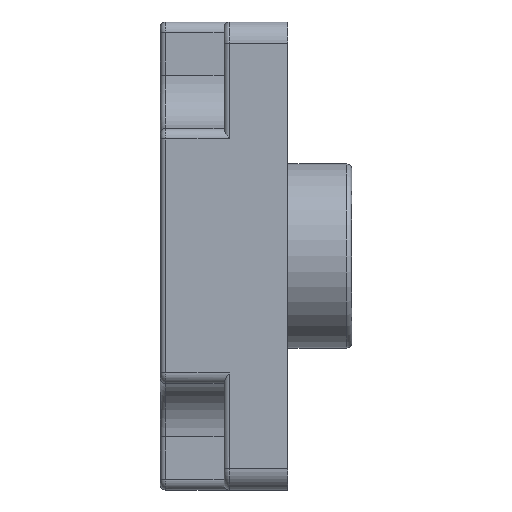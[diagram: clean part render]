
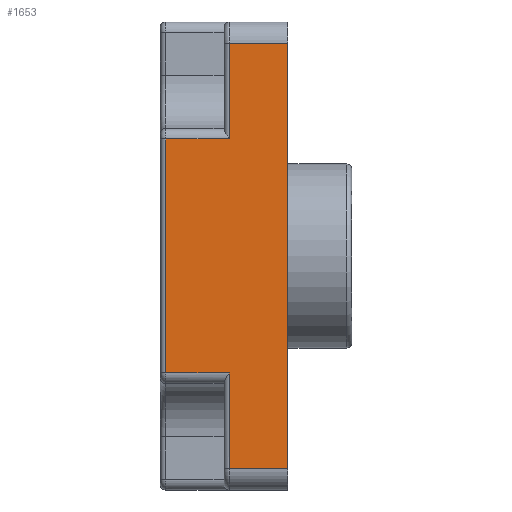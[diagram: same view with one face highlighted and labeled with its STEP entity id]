
A CAD part, left-side view. The second image highlights one B-rep face of the part: STEP entity #1653.
In plain terms, the highlighted planar face has unit normal (-1, 0, 0).
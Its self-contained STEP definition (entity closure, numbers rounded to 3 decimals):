
#44 = CARTESIAN_POINT ( 'NONE',  ( -22., 12., -11. ) ) ;
#64 = DIRECTION ( 'NONE',  ( 0., -1., 0. ) ) ;
#109 = CARTESIAN_POINT ( 'NONE',  ( -22., 11.5, -11. ) ) ;
#134 = EDGE_CURVE ( 'NONE', #1515, #1747, #2379, .T. ) ;
#145 = DIRECTION ( 'NONE',  ( 0., 0., -1. ) ) ;
#302 = CARTESIAN_POINT ( 'NONE',  ( -22., 5.5, -20. ) ) ;
#317 = EDGE_CURVE ( 'NONE', #1468, #1313, #2294, .T. ) ;
#364 = CARTESIAN_POINT ( 'NONE',  ( -22., 12., -20. ) ) ;
#530 = DIRECTION ( 'NONE',  ( 0., 0., -1. ) ) ;
#614 = LINE ( 'NONE', #44, #2636 ) ;
#651 = CARTESIAN_POINT ( 'NONE',  ( -22., 11.5, -11. ) ) ;
#729 = VECTOR ( 'NONE', #530, 1000. ) ;
#741 = ORIENTED_EDGE ( 'NONE', *, *, #1574, .T. ) ;
#863 = VECTOR ( 'NONE', #1804, 1000. ) ;
#961 = CARTESIAN_POINT ( 'NONE',  ( -22., 11.5, 11. ) ) ;
#975 = EDGE_CURVE ( 'NONE', #1747, #1079, #614, .T. ) ;
#1011 = EDGE_CURVE ( 'NONE', #1468, #2395, #2561, .T. ) ;
#1024 = CARTESIAN_POINT ( 'NONE',  ( -22., 0., 20. ) ) ;
#1079 = VERTEX_POINT ( 'NONE', #2131 ) ;
#1250 = PLANE ( 'NONE',  #2147 ) ;
#1313 = VERTEX_POINT ( 'NONE', #2378 ) ;
#1450 = CARTESIAN_POINT ( 'NONE',  ( -22., 12., 11. ) ) ;
#1467 = CARTESIAN_POINT ( 'NONE',  ( -22., 0., 20. ) ) ;
#1468 = VERTEX_POINT ( 'NONE', #1840 ) ;
#1471 = DIRECTION ( 'NONE',  ( 0., 0., 1. ) ) ;
#1513 = ORIENTED_EDGE ( 'NONE', *, *, #2597, .T. ) ;
#1515 = VERTEX_POINT ( 'NONE', #961 ) ;
#1574 = EDGE_CURVE ( 'NONE', #2307, #2629, #2114, .T. ) ;
#1653 = ADVANCED_FACE ( 'NONE', ( #2696 ), #1250, .F. ) ;
#1668 = CARTESIAN_POINT ( 'NONE',  ( -22., 5.5, 11. ) ) ;
#1679 = DIRECTION ( 'NONE',  ( 1., 0., 0. ) ) ;
#1747 = VERTEX_POINT ( 'NONE', #651 ) ;
#1791 = LINE ( 'NONE', #1024, #2659 ) ;
#1804 = DIRECTION ( 'NONE',  ( 0., 0., -1. ) ) ;
#1807 = ORIENTED_EDGE ( 'NONE', *, *, #134, .T. ) ;
#1840 = CARTESIAN_POINT ( 'NONE',  ( -22., 5.5, 20. ) ) ;
#1908 = ORIENTED_EDGE ( 'NONE', *, *, #975, .T. ) ;
#1950 = CARTESIAN_POINT ( 'NONE',  ( -22., 12., 20. ) ) ;
#1955 = VECTOR ( 'NONE', #2304, 1000. ) ;
#1967 = DIRECTION ( 'NONE',  ( 0., -1., 0. ) ) ;
#1974 = EDGE_CURVE ( 'NONE', #2629, #2395, #1791, .T. ) ;
#2007 = CARTESIAN_POINT ( 'NONE',  ( -22., 5.5, -20. ) ) ;
#2075 = DIRECTION ( 'NONE',  ( 0., 1., 0. ) ) ;
#2082 = EDGE_LOOP ( 'NONE', ( #1908, #2627, #741, #2170, #2451, #2677, #1513, #1807 ) ) ;
#2083 = VECTOR ( 'NONE', #145, 1000. ) ;
#2114 = LINE ( 'NONE', #364, #1955 ) ;
#2121 = LINE ( 'NONE', #2007, #863 ) ;
#2131 = CARTESIAN_POINT ( 'NONE',  ( -22., 5.5, -11. ) ) ;
#2147 = AXIS2_PLACEMENT_3D ( 'NONE', #2730, #1679, #2707 ) ;
#2170 = ORIENTED_EDGE ( 'NONE', *, *, #1974, .T. ) ;
#2211 = LINE ( 'NONE', #1450, #2518 ) ;
#2229 = EDGE_CURVE ( 'NONE', #1079, #2307, #2121, .T. ) ;
#2294 = LINE ( 'NONE', #1668, #2083 ) ;
#2304 = DIRECTION ( 'NONE',  ( 0., -1., 0. ) ) ;
#2307 = VERTEX_POINT ( 'NONE', #302 ) ;
#2316 = CARTESIAN_POINT ( 'NONE',  ( -22., 0., -20. ) ) ;
#2378 = CARTESIAN_POINT ( 'NONE',  ( -22., 5.5, 11. ) ) ;
#2379 = LINE ( 'NONE', #109, #729 ) ;
#2395 = VERTEX_POINT ( 'NONE', #1467 ) ;
#2451 = ORIENTED_EDGE ( 'NONE', *, *, #1011, .F. ) ;
#2470 = VECTOR ( 'NONE', #1967, 1000. ) ;
#2518 = VECTOR ( 'NONE', #2075, 1000. ) ;
#2561 = LINE ( 'NONE', #1950, #2470 ) ;
#2597 = EDGE_CURVE ( 'NONE', #1313, #1515, #2211, .T. ) ;
#2627 = ORIENTED_EDGE ( 'NONE', *, *, #2229, .T. ) ;
#2629 = VERTEX_POINT ( 'NONE', #2316 ) ;
#2636 = VECTOR ( 'NONE', #64, 1000. ) ;
#2659 = VECTOR ( 'NONE', #1471, 1000. ) ;
#2677 = ORIENTED_EDGE ( 'NONE', *, *, #317, .T. ) ;
#2696 = FACE_OUTER_BOUND ( 'NONE', #2082, .T. ) ;
#2707 = DIRECTION ( 'NONE',  ( 0., 0., -1. ) ) ;
#2730 = CARTESIAN_POINT ( 'NONE',  ( -22., 12., 20. ) ) ;
